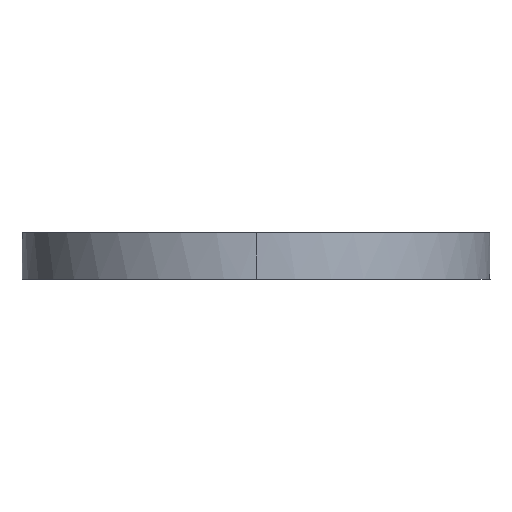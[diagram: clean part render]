
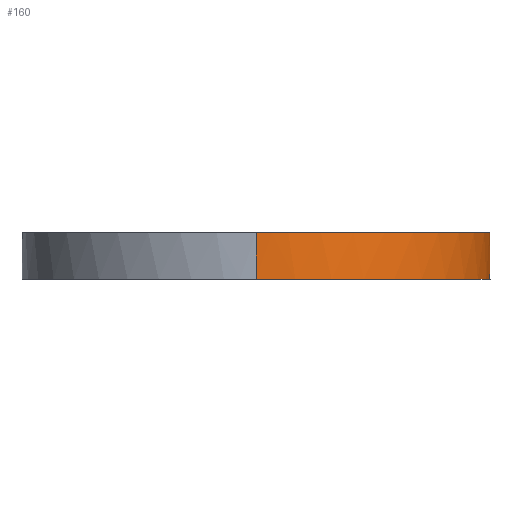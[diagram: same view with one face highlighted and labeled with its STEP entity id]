
A CAD part, left-side view. The second image highlights one B-rep face of the part: STEP entity #160.
In plain terms, the highlighted free-form (B-spline) face has degree [1, 2] with [2, 9] control points.
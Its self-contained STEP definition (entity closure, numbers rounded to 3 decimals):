
#160=ADVANCED_FACE('',(#172),#520,.T.);
#172=FACE_OUTER_BOUND('',#184,.T.);
#184=EDGE_LOOP('',(#203,#204,#205,#206));
#203=ORIENTED_EDGE('',*,*,#395,.T.);
#204=ORIENTED_EDGE('',*,*,#396,.T.);
#205=ORIENTED_EDGE('',*,*,#397,.T.);
#206=ORIENTED_EDGE('',*,*,#398,.T.);
#241=(
BOUNDED_CURVE()
B_SPLINE_CURVE(2,(#658,#659,#660,#661,#662),.UNSPECIFIED.,.F.,.F.)
B_SPLINE_CURVE_WITH_KNOTS((3,2,3),(1.,2.571,4.142),
 .UNSPECIFIED.)
CURVE()
GEOMETRIC_REPRESENTATION_ITEM()
RATIONAL_B_SPLINE_CURVE((1.,0.707,1.,0.707,1.))
REPRESENTATION_ITEM('')
);
#242=(
BOUNDED_CURVE()
B_SPLINE_CURVE(2,(#669,#670,#671,#672,#673),.UNSPECIFIED.,.F.,.F.)
B_SPLINE_CURVE_WITH_KNOTS((3,2,3),(5.142,6.712,8.283),
 .UNSPECIFIED.)
CURVE()
GEOMETRIC_REPRESENTATION_ITEM()
RATIONAL_B_SPLINE_CURVE((1.,0.707,1.,0.707,1.))
REPRESENTATION_ITEM('')
);
#275=PCURVE('',#520,#315);
#276=PCURVE('',#520,#316);
#277=PCURVE('',#520,#317);
#278=PCURVE('',#520,#318);
#315=DEFINITIONAL_REPRESENTATION('',(#438),#1098);
#316=DEFINITIONAL_REPRESENTATION('',(#439),#1098);
#317=DEFINITIONAL_REPRESENTATION('',(#441),#1098);
#318=DEFINITIONAL_REPRESENTATION('',(#442),#1098);
#355=SURFACE_CURVE('',#437,(#275),.PCURVE_S1.);
#356=SURFACE_CURVE('',#241,(#276),.PCURVE_S1.);
#357=SURFACE_CURVE('',#440,(#277),.PCURVE_S1.);
#358=SURFACE_CURVE('',#242,(#278),.PCURVE_S1.);
#395=EDGE_CURVE('',#483,#484,#355,.T.);
#396=EDGE_CURVE('',#484,#485,#356,.T.);
#397=EDGE_CURVE('',#485,#486,#357,.T.);
#398=EDGE_CURVE('',#486,#483,#358,.T.);
#437=B_SPLINE_CURVE_WITH_KNOTS('',1,(#654,#655),.UNSPECIFIED.,.F.,.F.,(2,
2),(0.,1.),.UNSPECIFIED.);
#438=B_SPLINE_CURVE_WITH_KNOTS('',1,(#656,#657),.UNSPECIFIED.,.F.,.F.,(2,
2),(0.,1.),.UNSPECIFIED.);
#439=B_SPLINE_CURVE_WITH_KNOTS('',1,(#663,#664),.UNSPECIFIED.,.F.,.F.,(2,
2),(1.,4.142),.UNSPECIFIED.);
#440=B_SPLINE_CURVE_WITH_KNOTS('',1,(#665,#666),.UNSPECIFIED.,.F.,.F.,(2,
2),(4.142,5.142),.UNSPECIFIED.);
#441=B_SPLINE_CURVE_WITH_KNOTS('',1,(#667,#668),.UNSPECIFIED.,.F.,.F.,(2,
2),(4.142,5.142),.UNSPECIFIED.);
#442=B_SPLINE_CURVE_WITH_KNOTS('',1,(#674,#675),.UNSPECIFIED.,.F.,.F.,(2,
2),(5.142,8.283),.UNSPECIFIED.);
#483=VERTEX_POINT('',#650);
#484=VERTEX_POINT('',#651);
#485=VERTEX_POINT('',#652);
#486=VERTEX_POINT('',#653);
#520=(
BOUNDED_SURFACE()
B_SPLINE_SURFACE(1,2,((#632,#633,#634,#635,#636,#637,#638,#639,#640),(#641,
#642,#643,#644,#645,#646,#647,#648,#649)),.UNSPECIFIED.,.F.,.F.,.F.)
B_SPLINE_SURFACE_WITH_KNOTS((2,2),(3,2,2,2,3),(0.,1.),(0.,1.571,
3.142,4.712,6.283),.UNSPECIFIED.)
GEOMETRIC_REPRESENTATION_ITEM()
RATIONAL_B_SPLINE_SURFACE(((1.,0.707,1.,0.707,1.,
0.707,1.,0.707,1.),(1.,0.707,1.,0.707,
1.,0.707,1.,0.707,1.)))
REPRESENTATION_ITEM('')
SURFACE()
);
#632=CARTESIAN_POINT('',(-1.,5.,0.));
#633=CARTESIAN_POINT('',(-1.,5.,-5.));
#634=CARTESIAN_POINT('',(-1.,0.,-5.));
#635=CARTESIAN_POINT('',(-1.,-5.,-5.));
#636=CARTESIAN_POINT('',(-1.,-5.,0.));
#637=CARTESIAN_POINT('',(-1.,-5.,5.));
#638=CARTESIAN_POINT('',(-1.,0.,5.));
#639=CARTESIAN_POINT('',(-1.,5.,5.));
#640=CARTESIAN_POINT('',(-1.,5.,0.));
#641=CARTESIAN_POINT('',(0.,5.,0.));
#642=CARTESIAN_POINT('',(0.,5.,-5.));
#643=CARTESIAN_POINT('',(0.,0.,-5.));
#644=CARTESIAN_POINT('',(0.,-5.,-5.));
#645=CARTESIAN_POINT('',(0.,-5.,0.));
#646=CARTESIAN_POINT('',(0.,-5.,5.));
#647=CARTESIAN_POINT('',(0.,0.,5.));
#648=CARTESIAN_POINT('',(0.,5.,5.));
#649=CARTESIAN_POINT('',(0.,5.,0.));
#650=CARTESIAN_POINT('',(-1.,5.,0.));
#651=CARTESIAN_POINT('',(0.,5.,0.));
#652=CARTESIAN_POINT('',(0.,-5.,0.));
#653=CARTESIAN_POINT('',(-1.,-5.,0.));
#654=CARTESIAN_POINT('',(-1.,5.,0.));
#655=CARTESIAN_POINT('',(0.,5.,0.));
#656=CARTESIAN_POINT('',(0.,0.));
#657=CARTESIAN_POINT('',(1.,0.));
#658=CARTESIAN_POINT('',(0.,5.,0.));
#659=CARTESIAN_POINT('',(0.,5.,-5.));
#660=CARTESIAN_POINT('',(0.,0.,-5.));
#661=CARTESIAN_POINT('',(0.,-5.,-5.));
#662=CARTESIAN_POINT('',(0.,-5.,0.));
#663=CARTESIAN_POINT('',(1.,0.));
#664=CARTESIAN_POINT('',(1.,3.142));
#665=CARTESIAN_POINT('',(0.,-5.,0.));
#666=CARTESIAN_POINT('',(-1.,-5.,0.));
#667=CARTESIAN_POINT('',(1.,3.142));
#668=CARTESIAN_POINT('',(0.,3.142));
#669=CARTESIAN_POINT('',(-1.,-5.,0.));
#670=CARTESIAN_POINT('',(-1.,-5.,-5.));
#671=CARTESIAN_POINT('',(-1.,0.,-5.));
#672=CARTESIAN_POINT('',(-1.,5.,-5.));
#673=CARTESIAN_POINT('',(-1.,5.,0.));
#674=CARTESIAN_POINT('',(0.,3.142));
#675=CARTESIAN_POINT('',(0.,0.));
#1098=(
GEOMETRIC_REPRESENTATION_CONTEXT(2)
PARAMETRIC_REPRESENTATION_CONTEXT()
REPRESENTATION_CONTEXT('pspace','')
);
